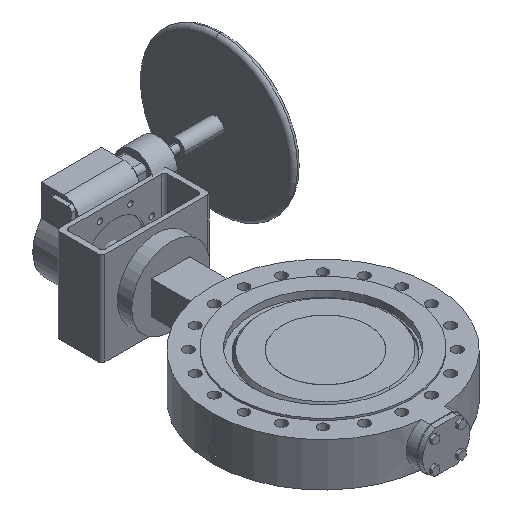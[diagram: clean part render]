
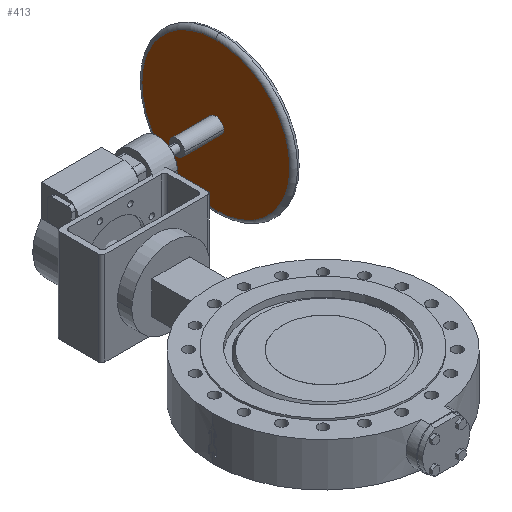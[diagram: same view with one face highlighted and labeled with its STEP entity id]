
A CAD part, isometric view. The second image highlights one B-rep face of the part: STEP entity #413.
In plain terms, the highlighted planar face has unit normal (-1, 0, 0).
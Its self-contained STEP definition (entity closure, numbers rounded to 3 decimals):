
#413 = ADVANCED_FACE( '', ( #1103, #1104 ), #1105, .T. );
#1103 = FACE_OUTER_BOUND( '', #1813, .T. );
#1104 = FACE_BOUND( '', #1814, .T. );
#1105 = PLANE( '', #1815 );
#1813 = EDGE_LOOP( '', ( #4205, #4206, #4207 ) );
#1814 = EDGE_LOOP( '', ( #4208, #4209 ) );
#1815 = AXIS2_PLACEMENT_3D( '', #4210, #4211, #4212 );
#4205 = ORIENTED_EDGE( '', *, *, #4984, .F. );
#4206 = ORIENTED_EDGE( '', *, *, #4983, .F. );
#4207 = ORIENTED_EDGE( '', *, *, #4980, .F. );
#4208 = ORIENTED_EDGE( '', *, *, #4996, .T. );
#4209 = ORIENTED_EDGE( '', *, *, #5133, .T. );
#4210 = CARTESIAN_POINT( '', ( 392., 867.25, 130. ) );
#4211 = DIRECTION( '', ( -1., 0., 0. ) );
#4212 = DIRECTION( '', ( 0., -1., 0. ) );
#4980 = EDGE_CURVE( '', #6187, #6189, #6190, .T. );
#4983 = EDGE_CURVE( '', #6189, #6193, #6194, .T. );
#4984 = EDGE_CURVE( '', #6193, #6187, #6195, .T. );
#4996 = EDGE_CURVE( '', #6212, #6216, #6218, .T. );
#5133 = EDGE_CURVE( '', #6216, #6212, #6447, .T. );
#6187 = VERTEX_POINT( '', #8697 );
#6189 = VERTEX_POINT( '', #8699 );
#6190 = CIRCLE( '', #8700, 237.5 );
#6193 = VERTEX_POINT( '', #8703 );
#6194 = CIRCLE( '', #8704, 237.5 );
#6195 = CIRCLE( '', #8705, 237.5 );
#6212 = VERTEX_POINT( '', #8724 );
#6216 = VERTEX_POINT( '', #8729 );
#6218 = CIRCLE( '', #8732, 25. );
#6447 = CIRCLE( '', #9086, 25. );
#8697 = CARTESIAN_POINT( '', ( 392., 736., 367.5 ) );
#8699 = CARTESIAN_POINT( '', ( 392., 736., -107.5 ) );
#8700 = AXIS2_PLACEMENT_3D( '', #10283, #10284, #10285 );
#8703 = CARTESIAN_POINT( '', ( 392., 973.5, 130. ) );
#8704 = AXIS2_PLACEMENT_3D( '', #10292, #10293, #10294 );
#8705 = AXIS2_PLACEMENT_3D( '', #10295, #10296, #10297 );
#8724 = CARTESIAN_POINT( '', ( 392., 761., 130. ) );
#8729 = CARTESIAN_POINT( '', ( 392., 711., 130. ) );
#8732 = AXIS2_PLACEMENT_3D( '', #10323, #10324, #10325 );
#9086 = AXIS2_PLACEMENT_3D( '', #10557, #10558, #10559 );
#10283 = CARTESIAN_POINT( '', ( 392., 736., 130. ) );
#10284 = DIRECTION( '', ( 1., 0., 0. ) );
#10285 = DIRECTION( '', ( 0., 1., 0. ) );
#10292 = CARTESIAN_POINT( '', ( 392., 736., 130. ) );
#10293 = DIRECTION( '', ( 1., 0., 0. ) );
#10294 = DIRECTION( '', ( 0., 1., 0. ) );
#10295 = CARTESIAN_POINT( '', ( 392., 736., 130. ) );
#10296 = DIRECTION( '', ( 1., 0., 0. ) );
#10297 = DIRECTION( '', ( 0., 1., 0. ) );
#10323 = CARTESIAN_POINT( '', ( 392., 736., 130. ) );
#10324 = DIRECTION( '', ( 1., 0., 0. ) );
#10325 = DIRECTION( '', ( 0., 1., 0. ) );
#10557 = CARTESIAN_POINT( '', ( 392., 736., 130. ) );
#10558 = DIRECTION( '', ( 1., 0., 0. ) );
#10559 = DIRECTION( '', ( 0., 1., 0. ) );
